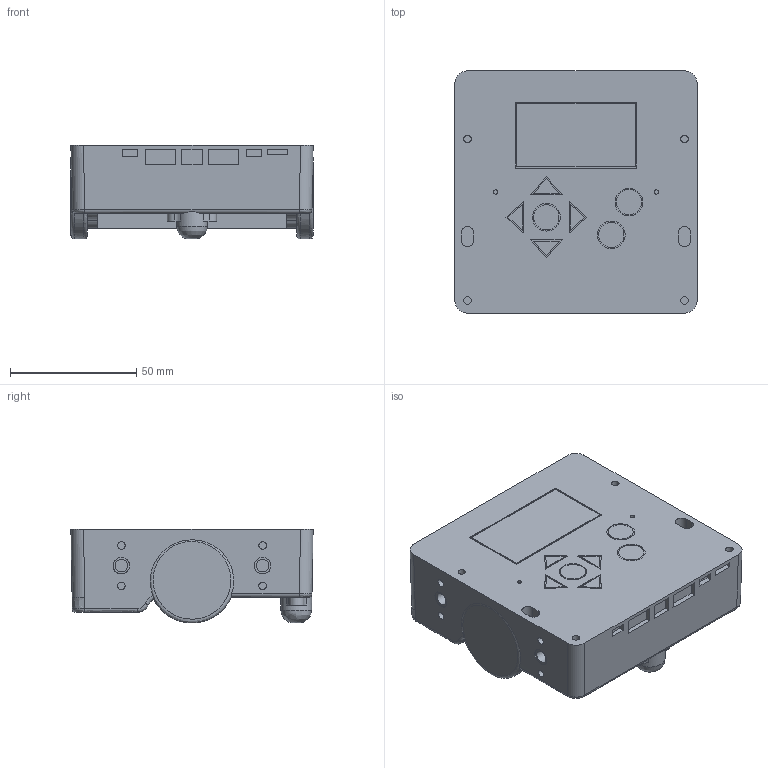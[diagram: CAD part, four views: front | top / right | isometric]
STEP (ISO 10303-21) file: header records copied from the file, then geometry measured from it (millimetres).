
FILE_DESCRIPTION(/* description */ (''),/* implementation_level */ '2;1');
FILE_NAME(/* name */ 'structure v5.step',/* time_stamp */ '2024-09-19T12:17:21+02:00',/* author */ (''),/* organization */ (''),/* preprocessor_version */ 'ST-DEVELOPER v20',/* originating_system */ 'Autodesk Translation Framework v13.20.0.188',/* authorisation */ '');
FILE_SCHEMA (('AUTOMOTIVE_DESIGN { 1 0 10303 214 3 1 1 }'));
Length unit declared in the file: millimetre
Products named in the file (1): structure
Bounding box: 96 x 96 x 37.2 mm (x, y, z)
Volume: 250892.5 mm3; surface area: 33848.7 mm2
Topology: 1 solids, 1 shells, 202 faces, 448 edges, 295 vertices
Faces by surface type: plane 128, cylinder 56, bspline 18
Full cylindrical faces by diameter (mm): 1.75 x2, 3 x12, 5 x4, 6.6 x4, 10 x3, 11 x3, 12.2 x1
Entity records: 6598 total; most frequent: CARTESIAN_POINT 2123, ORIENTED_EDGE 896, DIRECTION 874, EDGE_CURVE 448, AXIS2_PLACEMENT_3D 298, VERTEX_POINT 295, LINE 278, VECTOR 278
